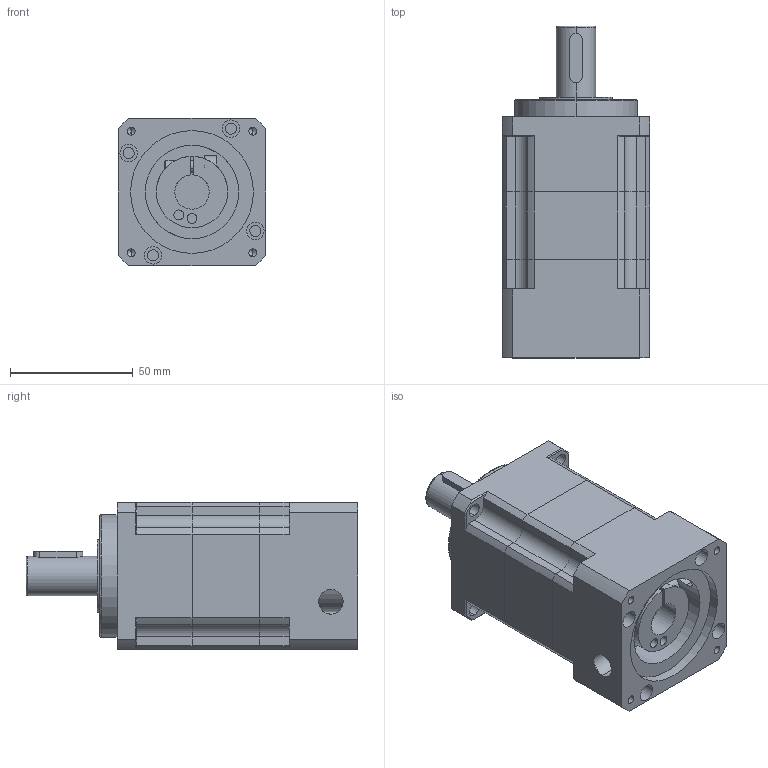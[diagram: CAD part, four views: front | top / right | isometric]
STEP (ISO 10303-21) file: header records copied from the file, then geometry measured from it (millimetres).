
FILE_DESCRIPTION (( 'STEP AP203' ), '1' );
FILE_NAME ('PLG060-L2-14-50-70.STEP', '2020-08-12T03:08:41', ( 'Windows User' ), ( 'P R C' ), 'SwSTEP 2.0', 'SolidWorks 2017', '' );
FILE_SCHEMA (( 'CONFIG_CONTROL_DESIGN' ));
Length unit declared in the file: millimetre
Products named in the file (6): PLG060-L2-14-50-70; PLG060狟裔啣; PLG060奻裔啣; 囀鞠褒蹟佪-M5℅16; PLG060图二级齿圈; 邧埴瑩 5x5x20
Assembly tree (5 placements, depth 2):
  PLG060-L2-14-50-70
    PLG060奻裔啣
    PLG060狟裔啣
    邧埴瑩 5x5x20
    PLG060图二级齿圈
    囀鞠褒蹟佪-M5℅16
Bounding box: 60 x 135 x 60 mm (x, y, z)
Volume: 312427.4 mm3; surface area: 57294.9 mm2
Topology: 5 solids, 5 shells, 278 faces, 708 edges, 450 vertices
Faces by surface type: cylinder 138, plane 104, cone 28, bspline 8
Entity records: 9458 total; most frequent: CARTESIAN_POINT 1987, DIRECTION 1504, ORIENTED_EDGE 1380, EDGE_CURVE 690, AXIS2_PLACEMENT_3D 573, VERTEX_POINT 450, VECTOR 358, LINE 358
